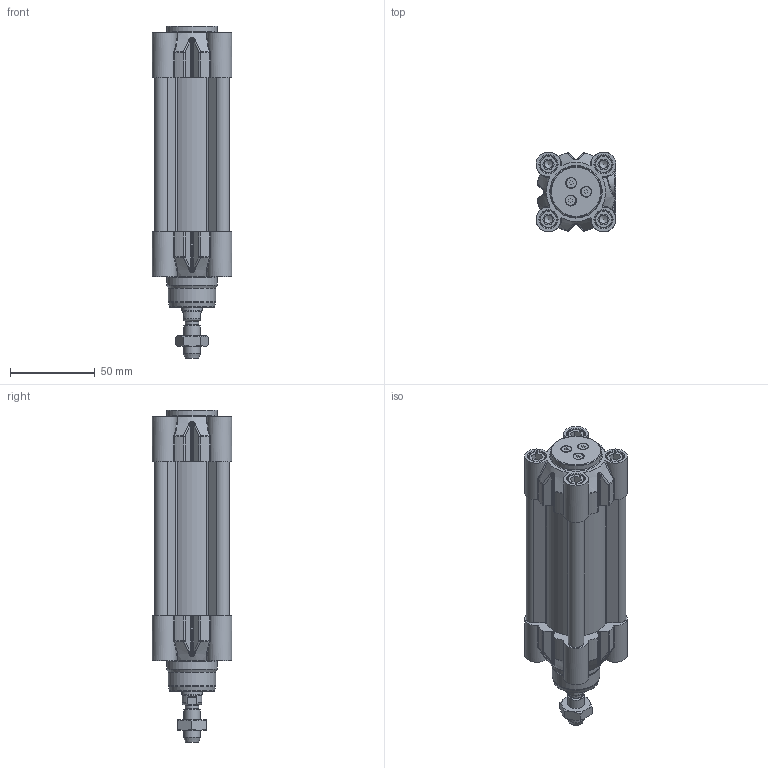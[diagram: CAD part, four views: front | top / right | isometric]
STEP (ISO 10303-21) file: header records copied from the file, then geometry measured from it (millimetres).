
FILE_DESCRIPTION(/* description */ ('Unknown'),/* implementation_level */ '2;1');
FILE_NAME(/* name */ 'HIFO 32_50',/* time_stamp */ '2024-08-13T13:12:43+02:00',/* author */ ('Unknown'),/* organization */ ('Unknown'),/* preprocessor_version */ 'ST-DEVELOPER v16.7',/* originating_system */ 'Solid Edge',/* authorisation */ 'Unknown');
FILE_SCHEMA (('AUTOMOTIVE_DESIGN {1 0 10303 214 3 1 1}'));
Length unit declared in the file: millimetre
Products named in the file (6): HIFO 32_50; Profilrohr 32_50; Kit_1; Mutter; Kit_2; Kolbenstange 32_50
Assembly tree (5 placements, depth 2):
  HIFO 32_50
    Profilrohr 32_50
    Kit_1
    Mutter
    Kit_2
    Kolbenstange 32_50
Bounding box: 47 x 47 x 196 mm (x, y, z)
Volume: 196659.3 mm3; surface area: 93939.9 mm2
Topology: 5 solids, 9 shells, 982 faces, 2506 edges, 1629 vertices
Faces by surface type: cylinder 372, plane 349, cone 98, torus 77, bspline 66, sphere 20
Full cylindrical faces by diameter (mm): 2.1 x1, 3 x1, 3.5 x1, 4.917 x16, 6 x9, 6.2 x8, 7 x1, 7.9 x1, 7.991 x1, 8 x1, 8.56 x1, 8.566 x2, 8.647 x1, 10 x9, 10.3 x8, 11.6 x1, 11.804 x1, 12 x2, 12.8 x1, 12.847 x1, 16 x1, 22 x2, 28 x1, 30 x2, 32 x2
Entity records: 37968 total; most frequent: CARTESIAN_POINT 9474, ORIENTED_EDGE 4876, DIRECTION 4449, EDGE_CURVE 2438, AXIS2_PLACEMENT_3D 1748, VERTEX_POINT 1613, FACE_BOUND 1141, EDGE_LOOP 1133
